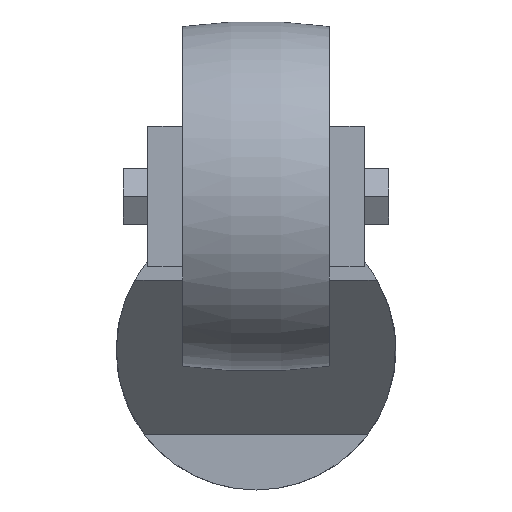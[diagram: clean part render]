
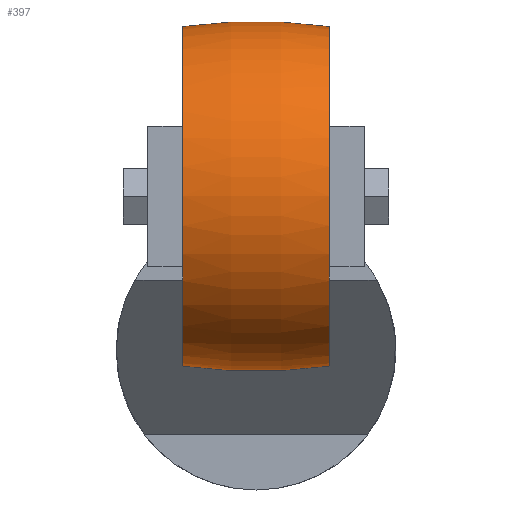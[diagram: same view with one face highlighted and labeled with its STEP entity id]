
A CAD part, front view. The second image highlights one B-rep face of the part: STEP entity #397.
In plain terms, the highlighted toroidal (fillet/blend) face has major radius 50 mm and minor radius 75 mm.
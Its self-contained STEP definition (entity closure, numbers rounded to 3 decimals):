
#23 = VERTEX_POINT ( 'NONE', #758 ) ;
#53 = EDGE_CURVE ( 'NONE', #979, #444, #911, .T. ) ;
#79 = DIRECTION ( 'NONE',  ( -1., 0., 0. ) ) ;
#94 = AXIS2_PLACEMENT_3D ( 'NONE', #1137, #79, #1066 ) ;
#106 = VERTEX_POINT ( 'NONE', #1231 ) ;
#234 = CARTESIAN_POINT ( 'NONE',  ( -10.5, -42., -2.261 ) ) ;
#333 = DIRECTION ( 'NONE',  ( 0., 0., 1. ) ) ;
#338 = DIRECTION ( 'NONE',  ( -1., 0., 0. ) ) ;
#369 = DIRECTION ( 'NONE',  ( 0., -1., 0. ) ) ;
#397 = ADVANCED_FACE ( 'NONE', ( #1048 ), #643, .T. ) ;
#444 = VERTEX_POINT ( 'NONE', #1036 ) ;
#460 = DIRECTION ( 'NONE',  ( 0., 0., -1. ) ) ;
#508 = EDGE_CURVE ( 'NONE', #106, #979, #1214, .T. ) ;
#547 = DIRECTION ( 'NONE',  ( 0., 0., 1. ) ) ;
#555 = ORIENTED_EDGE ( 'NONE', *, *, #53, .F. ) ;
#607 = EDGE_LOOP ( 'NONE', ( #1121, #1227, #918, #555 ) ) ;
#609 = DIRECTION ( 'NONE',  ( 0., 0., 1. ) ) ;
#641 = CARTESIAN_POINT ( 'NONE',  ( 0., -42., 72. ) ) ;
#643 = TOROIDAL_SURFACE ( 'NONE', #94, -50., 75. ) ;
#645 = DIRECTION ( 'NONE',  ( -1., 0., 0. ) ) ;
#667 = AXIS2_PLACEMENT_3D ( 'NONE', #641, #901, #333 ) ;
#758 = CARTESIAN_POINT ( 'NONE',  ( 10.5, -42., 46.261 ) ) ;
#827 = CARTESIAN_POINT ( 'NONE',  ( 10.5, -42., 22. ) ) ;
#851 = CARTESIAN_POINT ( 'NONE',  ( -10.5, -42., 22. ) ) ;
#853 = CARTESIAN_POINT ( 'NONE',  ( 0., -42., -28. ) ) ;
#901 = DIRECTION ( 'NONE',  ( 0., 1., 0. ) ) ;
#911 = CIRCLE ( 'NONE', #952, 24.261 ) ;
#918 = ORIENTED_EDGE ( 'NONE', *, *, #1209, .T. ) ;
#952 = AXIS2_PLACEMENT_3D ( 'NONE', #851, #645, #547 ) ;
#978 = EDGE_CURVE ( 'NONE', #106, #23, #1261, .T. ) ;
#979 = VERTEX_POINT ( 'NONE', #234 ) ;
#1032 = CIRCLE ( 'NONE', #1197, 75. ) ;
#1036 = CARTESIAN_POINT ( 'NONE',  ( -10.5, -42., 46.261 ) ) ;
#1048 = FACE_OUTER_BOUND ( 'NONE', #607, .T. ) ;
#1066 = DIRECTION ( 'NONE',  ( 0., 0., 1. ) ) ;
#1116 = AXIS2_PLACEMENT_3D ( 'NONE', #827, #338, #609 ) ;
#1121 = ORIENTED_EDGE ( 'NONE', *, *, #508, .F. ) ;
#1137 = CARTESIAN_POINT ( 'NONE',  ( 0., -42., 22. ) ) ;
#1197 = AXIS2_PLACEMENT_3D ( 'NONE', #853, #369, #460 ) ;
#1209 = EDGE_CURVE ( 'NONE', #23, #444, #1032, .T. ) ;
#1214 = CIRCLE ( 'NONE', #667, 75. ) ;
#1227 = ORIENTED_EDGE ( 'NONE', *, *, #978, .T. ) ;
#1231 = CARTESIAN_POINT ( 'NONE',  ( 10.5, -42., -2.261 ) ) ;
#1261 = CIRCLE ( 'NONE', #1116, 24.261 ) ;
